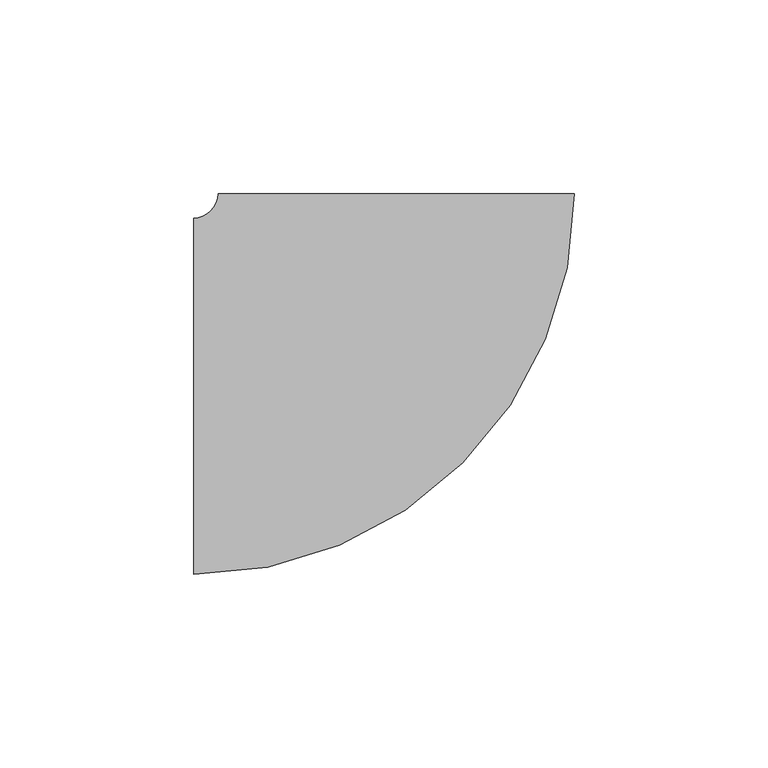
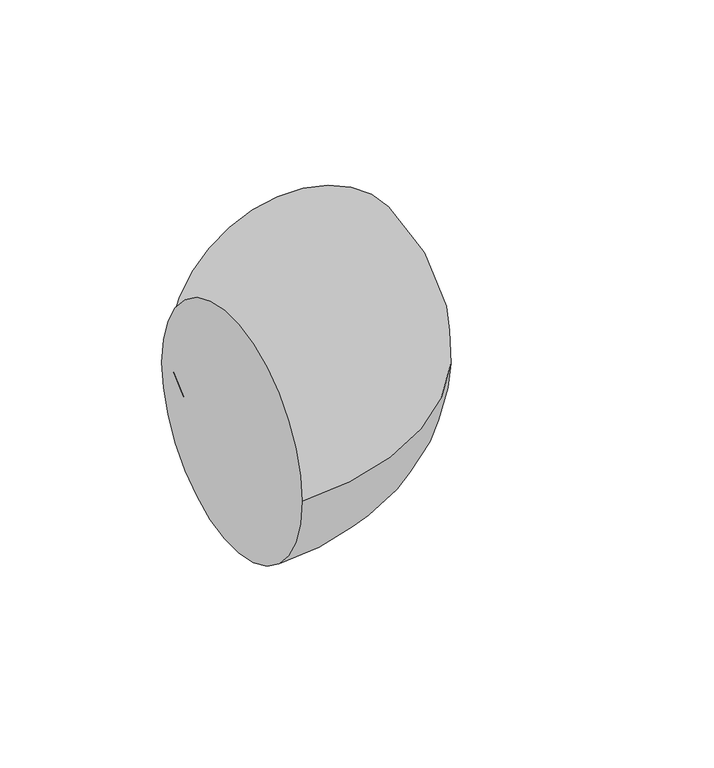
"""IFC4 building model written with IfcOpenShell, lengths in millimetres: pipe fitting geometry, M_Codo - Genérico : Estándar."""

from ifc_helpers import new_model, si_unit, point, frame, origin, place, context, project, spatial, circle_curve, ellipse_curve, trimmed, source, transform, mapped, element, save
from ifc_brep_helpers import plane_surface, revolved_surface, advanced_brep


def pipe_fitting_573a4a97(model_context):
    return source(origin(), model_context, "Body", "AdvancedBrep", [
        advanced_brep(
        [(-52.3874357, -46.0375, 0.0), (-52.3874357, 46.0375, 0.0), (46.0375643, 52.3873792, 0.0), (-46.0374357, 52.3874922, 0.0)],
        [
            (0, 1, circle_curve(frame((-52.3874357, 0.0, 0.0), z_axis=(-1.0, 0.0, 0.0), x_axis=(0.0, 1.0, 0.0)), 46.0375)),
            (1, 0, circle_curve(frame((-52.3874357, 0.0, 0.0), z_axis=(-1.0, 0.0, 0.0), x_axis=(0.0, 1.0, 0.0)), 46.0375)),
            (2, 3, circle_curve(frame((6.43e-05, 52.3874357, 0.0), z_axis=(1.2270001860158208e-06, 0.9999999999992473, 0.0), x_axis=(-0.9999999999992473, 1.2270001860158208e-06, 0.0)), 46.0375)),
            (3, 2, circle_curve(frame((6.43e-05, 52.3874357, 0.0), z_axis=(1.2270001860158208e-06, 0.9999999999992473, 0.0), x_axis=(-0.9999999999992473, 1.2270001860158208e-06, 0.0)), 46.0375)),
            (3, 1, circle_curve(frame((-52.3874357, 52.3875, 0.0), z_axis=(0.0, 0.0, -1.0), x_axis=(0.0, -1.0, 0.0)), 6.35)),
            (0, 2, circle_curve(frame((-52.3874357, 52.3875, 0.0), z_axis=(0.0, 0.0, 1.0), x_axis=(0.0, -1.0, 0.0)), 98.425)),
        ],
        [
            plane_surface(frame((-52.3874357, 0.0, 0.0), z_axis=(-1.0, 0.0, 0.0), x_axis=(0.0, 0.0, 1.0))),
            plane_surface(frame((6.43e-05, 52.3874357, 0.0), z_axis=(1.2270001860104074e-06, 0.9999999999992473, 0.0), x_axis=(0.0, 0.0, 1.0))),
            revolved_surface(trimmed(ellipse_curve(frame((-52.3874357, 0.0, 0.0), z_axis=(-1.0, 0.0, 0.0), x_axis=(0.0, 1.0, 0.0)), 46.0375, 46.0375), [point((-52.3874357, -46.0375, 0.0))], [point((-52.3874357, 46.0375, 0.0))], True, "CARTESIAN"), (-52.3874357, 52.3875, 0.0), (0.0, 0.0, 1.0)),
            revolved_surface(trimmed(ellipse_curve(frame((-52.3874357, 0.0, 0.0), z_axis=(-1.0, 0.0, 0.0), x_axis=(0.0, 1.0, 0.0)), 46.0375, 46.0375), [point((-52.3874357, 46.0375, 0.0))], [point((-52.3874357, -46.0375, 0.0))], True, "CARTESIAN"), (-52.3874357, 52.3875, 0.0), (0.0, 0.0, 1.0)),
        ],
        [
            (0, [[1, 2]]),
            (1, [[3, 4]]),
            (2, [[5, -1, 6, -4]]),
            (3, [[-6, -2, -5, -3]]),
        ],
    ),
    ])


if __name__ == "__main__":
    model = new_model("IFC4")
    model_context = context("Model", 3, world=origin())
    ifc_project = project(units=[si_unit("LENGTHUNIT", "METRE", prefix="MILLI")], contexts=[model_context])
    site = spatial("IfcSite", under=ifc_project)
    building = spatial("IfcBuilding", under=site)
    placement = place(None, origin())
    pipe_fitting_shape = pipe_fitting_573a4a97(model_context)
    element("IfcPipeFitting", 1, ObjectType="M_Codo - Genérico : Estándar", at=placement, inside=building, context=model_context, shape_type="MappedRepresentation", body=[
        mapped(pipe_fitting_shape, transform((0.0, 0.0, 0.0), x_axis=(1.0, 0.0, 0.0), y_axis=(0.0, 1.0, 0.0), z_axis=(0.0, 0.0, 1.0))),
    ])
    save(model, "model.ifc")
